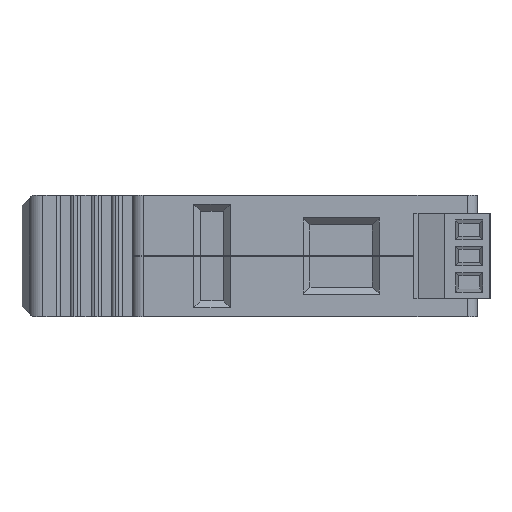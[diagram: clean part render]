
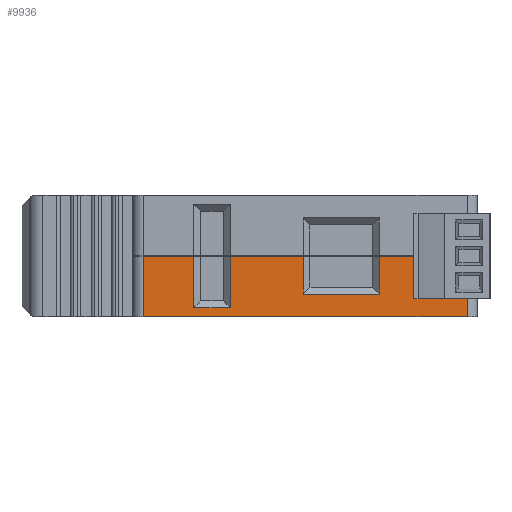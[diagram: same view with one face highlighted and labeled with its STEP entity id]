
A CAD part, left-side view. The second image highlights one B-rep face of the part: STEP entity #9936.
In plain terms, the highlighted planar face has unit normal (-1, 0, 0).
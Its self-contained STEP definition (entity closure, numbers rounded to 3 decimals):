
#353=PLANE('',#10741);
#799=FACE_OUTER_BOUND('',#1355,.T.);
#1355=EDGE_LOOP('',(#7823,#7824,#7825,#7826,#7827,#7828,#7829,#7830,#7831,
#7832,#7833,#7834,#7835,#7836));
#1925=LINE('',#14547,#3061);
#2200=LINE('',#15215,#3336);
#2206=LINE('',#15227,#3342);
#2212=LINE('',#15239,#3348);
#2244=LINE('',#15324,#3380);
#2246=LINE('',#15329,#3382);
#2265=LINE('',#15366,#3401);
#2268=LINE('',#15373,#3404);
#2287=LINE('',#15410,#3423);
#2290=LINE('',#15417,#3426);
#2291=LINE('',#15419,#3427);
#2292=LINE('',#15420,#3428);
#2293=LINE('',#15421,#3429);
#2294=LINE('',#15422,#3430);
#3061=VECTOR('',#11656,10.);
#3336=VECTOR('',#12201,10.);
#3342=VECTOR('',#12207,10.);
#3348=VECTOR('',#12213,10.);
#3380=VECTOR('',#12283,10.);
#3382=VECTOR('',#12289,10.);
#3401=VECTOR('',#12324,10.);
#3404=VECTOR('',#12331,10.);
#3423=VECTOR('',#12366,10.);
#3426=VECTOR('',#12373,10.);
#3427=VECTOR('',#12374,10.);
#3428=VECTOR('',#12375,10.);
#3429=VECTOR('',#12376,10.);
#3430=VECTOR('',#12377,10.);
#4471=VERTEX_POINT('',#14544);
#4472=VERTEX_POINT('',#14546);
#4723=VERTEX_POINT('',#15212);
#4724=VERTEX_POINT('',#15214);
#4729=VERTEX_POINT('',#15224);
#4730=VERTEX_POINT('',#15226);
#4735=VERTEX_POINT('',#15236);
#4736=VERTEX_POINT('',#15238);
#4771=VERTEX_POINT('',#15328);
#4781=VERTEX_POINT('',#15364);
#4783=VERTEX_POINT('',#15372);
#4793=VERTEX_POINT('',#15408);
#4795=VERTEX_POINT('',#15416);
#4796=VERTEX_POINT('',#15418);
#5486=EDGE_CURVE('',#4472,#4471,#1925,.T.);
#5819=EDGE_CURVE('',#4724,#4723,#2200,.T.);
#5825=EDGE_CURVE('',#4730,#4729,#2206,.T.);
#5831=EDGE_CURVE('',#4736,#4735,#2212,.T.);
#5874=EDGE_CURVE('',#4472,#4723,#2244,.T.);
#5876=EDGE_CURVE('',#4724,#4771,#2246,.T.);
#5895=EDGE_CURVE('',#4781,#4729,#2265,.T.);
#5898=EDGE_CURVE('',#4730,#4783,#2268,.T.);
#5917=EDGE_CURVE('',#4793,#4735,#2287,.T.);
#5920=EDGE_CURVE('',#4795,#4471,#2290,.T.);
#5921=EDGE_CURVE('',#4795,#4796,#2291,.T.);
#5922=EDGE_CURVE('',#4796,#4736,#2292,.T.);
#5923=EDGE_CURVE('',#4783,#4793,#2293,.T.);
#5924=EDGE_CURVE('',#4771,#4781,#2294,.T.);
#7823=ORIENTED_EDGE('',*,*,#5819,.T.);
#7824=ORIENTED_EDGE('',*,*,#5874,.F.);
#7825=ORIENTED_EDGE('',*,*,#5486,.T.);
#7826=ORIENTED_EDGE('',*,*,#5920,.F.);
#7827=ORIENTED_EDGE('',*,*,#5921,.T.);
#7828=ORIENTED_EDGE('',*,*,#5922,.T.);
#7829=ORIENTED_EDGE('',*,*,#5831,.T.);
#7830=ORIENTED_EDGE('',*,*,#5917,.F.);
#7831=ORIENTED_EDGE('',*,*,#5923,.F.);
#7832=ORIENTED_EDGE('',*,*,#5898,.F.);
#7833=ORIENTED_EDGE('',*,*,#5825,.T.);
#7834=ORIENTED_EDGE('',*,*,#5895,.F.);
#7835=ORIENTED_EDGE('',*,*,#5924,.F.);
#7836=ORIENTED_EDGE('',*,*,#5876,.F.);
#9936=ADVANCED_FACE('',(#799),#353,.T.);
#10741=AXIS2_PLACEMENT_3D('',#15415,#12371,#12372);
#11656=DIRECTION('',(0.,-1.,0.));
#12201=DIRECTION('',(0.,1.,0.));
#12207=DIRECTION('',(0.,1.,0.));
#12213=DIRECTION('',(0.,1.,0.));
#12283=DIRECTION('',(0.,0.,1.));
#12289=DIRECTION('',(0.,0.,-1.));
#12324=DIRECTION('',(0.,0.,1.));
#12331=DIRECTION('',(0.,0.,-1.));
#12366=DIRECTION('',(0.,0.,1.));
#12371=DIRECTION('center_axis',(-1.,0.,0.));
#12372=DIRECTION('ref_axis',(0.,-1.,0.));
#12373=DIRECTION('',(0.,0.,-1.));
#12374=DIRECTION('',(0.,1.,0.));
#12375=DIRECTION('',(0.,0.,1.));
#12376=DIRECTION('',(0.,-1.,0.));
#12377=DIRECTION('',(0.,-1.,0.));
#14544=CARTESIAN_POINT('',(-45.,-34.3,0.));
#14546=CARTESIAN_POINT('',(-45.,12.5,0.));
#14547=CARTESIAN_POINT('',(-45.,14.,0.));
#15212=CARTESIAN_POINT('',(-45.,12.5,8.7));
#15214=CARTESIAN_POINT('',(-45.,5.2,8.7));
#15215=CARTESIAN_POINT('',(-45.,4.197,8.7));
#15224=CARTESIAN_POINT('',(-45.,-0.1,8.7));
#15226=CARTESIAN_POINT('',(-45.,-10.6,8.7));
#15227=CARTESIAN_POINT('',(-45.,4.197,8.7));
#15236=CARTESIAN_POINT('',(-45.,-21.6,8.7));
#15238=CARTESIAN_POINT('',(-45.,-27.3,8.7));
#15239=CARTESIAN_POINT('',(-45.,4.197,8.7));
#15324=CARTESIAN_POINT('',(-45.,12.5,0.));
#15328=CARTESIAN_POINT('',(-45.,5.2,1.25));
#15329=CARTESIAN_POINT('',(-45.,5.2,1.125));
#15364=CARTESIAN_POINT('',(-45.,-0.1,1.25));
#15366=CARTESIAN_POINT('',(-45.,-0.1,7.625));
#15372=CARTESIAN_POINT('',(-45.,-10.6,3.25));
#15373=CARTESIAN_POINT('',(-45.,-10.6,2.125));
#15408=CARTESIAN_POINT('',(-45.,-21.6,3.25));
#15410=CARTESIAN_POINT('',(-45.,-21.6,6.625));
#15415=CARTESIAN_POINT('Origin',(-45.,14.,0.));
#15416=CARTESIAN_POINT('',(-45.,-34.3,2.64));
#15417=CARTESIAN_POINT('',(-45.,-34.3,0.));
#15418=CARTESIAN_POINT('',(-45.,-27.3,2.64));
#15419=CARTESIAN_POINT('',(-45.,-10.15,2.64));
#15420=CARTESIAN_POINT('',(-45.,-27.3,1.32));
#15421=CARTESIAN_POINT('',(-45.,-3.3,3.25));
#15422=CARTESIAN_POINT('',(-45.,7.45,1.25));
